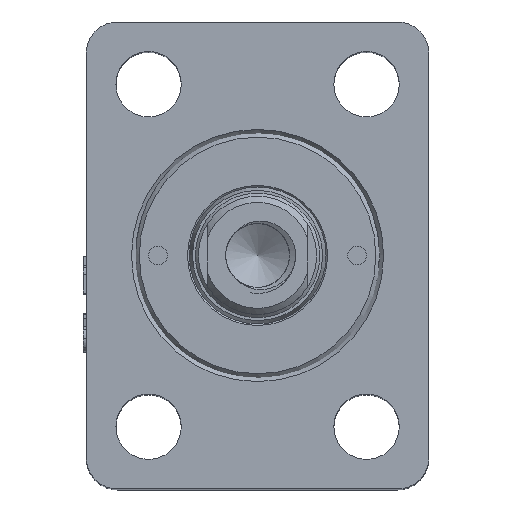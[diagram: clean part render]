
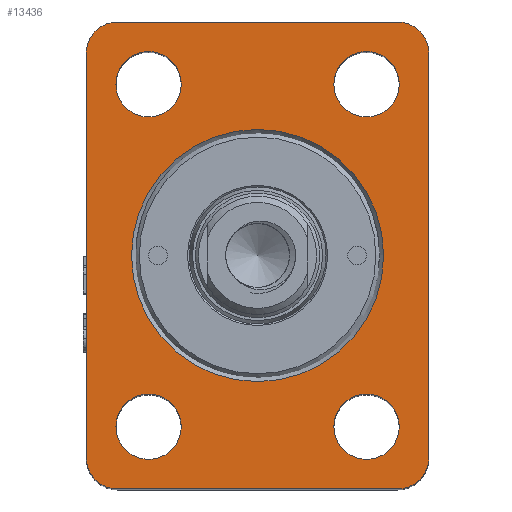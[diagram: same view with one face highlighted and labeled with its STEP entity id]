
A CAD part, top view. The second image highlights one B-rep face of the part: STEP entity #13436.
In plain terms, the highlighted planar face has unit normal (0, 0, 1).
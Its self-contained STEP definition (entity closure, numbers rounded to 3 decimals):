
#1408=FACE_BOUND('',#5086,.T.);
#1409=FACE_BOUND('',#5087,.T.);
#1410=FACE_BOUND('',#5088,.T.);
#1411=FACE_BOUND('',#5089,.T.);
#1412=FACE_BOUND('',#5090,.T.);
#1626=PLANE('',#14081);
#1813=LINE('',#29463,#2728);
#2496=LINE('',#38989,#3411);
#2497=LINE('',#38993,#3412);
#2498=LINE('',#38997,#3413);
#2728=VECTOR('',#15066,10.);
#3411=VECTOR('',#16073,10.);
#3412=VECTOR('',#16076,10.);
#3413=VECTOR('',#16081,10.);
#4279=FACE_OUTER_BOUND('',#5085,.T.);
#5085=EDGE_LOOP('',(#12338,#12339,#12340,#12341,#12342,#12343,#12344,#12345));
#5086=EDGE_LOOP('',(#12346));
#5087=EDGE_LOOP('',(#12347));
#5088=EDGE_LOOP('',(#12348));
#5089=EDGE_LOOP('',(#12349));
#5090=EDGE_LOOP('',(#12350));
#5337=CIRCLE('',#14079,20.25);
#5338=CIRCLE('',#14082,5.);
#5339=CIRCLE('',#14083,5.);
#5340=CIRCLE('',#14084,5.);
#5341=CIRCLE('',#14085,5.);
#5342=CIRCLE('',#14086,5.25);
#5343=CIRCLE('',#14087,5.25);
#5344=CIRCLE('',#14088,5.25);
#5345=CIRCLE('',#14089,5.25);
#5726=VERTEX_POINT('',#29459);
#5728=VERTEX_POINT('',#29462);
#6593=VERTEX_POINT('',#38980);
#6594=VERTEX_POINT('',#38985);
#6595=VERTEX_POINT('',#38986);
#6596=VERTEX_POINT('',#38988);
#6597=VERTEX_POINT('',#38990);
#6598=VERTEX_POINT('',#38992);
#6599=VERTEX_POINT('',#38995);
#6600=VERTEX_POINT('',#38998);
#6601=VERTEX_POINT('',#39000);
#6602=VERTEX_POINT('',#39002);
#6603=VERTEX_POINT('',#39004);
#7232=EDGE_CURVE('',#5728,#5726,#1813,.T.);
#8538=EDGE_CURVE('',#6593,#6593,#5337,.T.);
#8540=EDGE_CURVE('',#6594,#6595,#5338,.T.);
#8541=EDGE_CURVE('',#6594,#6596,#2496,.T.);
#8542=EDGE_CURVE('',#6597,#6596,#5339,.T.);
#8543=EDGE_CURVE('',#6597,#6598,#2497,.T.);
#8544=EDGE_CURVE('',#5728,#6598,#5340,.T.);
#8545=EDGE_CURVE('',#6599,#5726,#5341,.T.);
#8546=EDGE_CURVE('',#6599,#6595,#2498,.T.);
#8547=EDGE_CURVE('',#6600,#6600,#5342,.T.);
#8548=EDGE_CURVE('',#6601,#6601,#5343,.T.);
#8549=EDGE_CURVE('',#6602,#6602,#5344,.T.);
#8550=EDGE_CURVE('',#6603,#6603,#5345,.T.);
#12338=ORIENTED_EDGE('',*,*,#8540,.F.);
#12339=ORIENTED_EDGE('',*,*,#8541,.T.);
#12340=ORIENTED_EDGE('',*,*,#8542,.F.);
#12341=ORIENTED_EDGE('',*,*,#8543,.T.);
#12342=ORIENTED_EDGE('',*,*,#8544,.F.);
#12343=ORIENTED_EDGE('',*,*,#7232,.T.);
#12344=ORIENTED_EDGE('',*,*,#8545,.F.);
#12345=ORIENTED_EDGE('',*,*,#8546,.T.);
#12346=ORIENTED_EDGE('',*,*,#8547,.T.);
#12347=ORIENTED_EDGE('',*,*,#8548,.T.);
#12348=ORIENTED_EDGE('',*,*,#8549,.T.);
#12349=ORIENTED_EDGE('',*,*,#8550,.T.);
#12350=ORIENTED_EDGE('',*,*,#8538,.F.);
#13436=ADVANCED_FACE('',(#4279,#1408,#1409,#1410,#1411,#1412),#1626,.T.);
#14079=AXIS2_PLACEMENT_3D('',#38981,#16064,#16065);
#14081=AXIS2_PLACEMENT_3D('',#38984,#16069,#16070);
#14082=AXIS2_PLACEMENT_3D('',#38987,#16071,#16072);
#14083=AXIS2_PLACEMENT_3D('',#38991,#16074,#16075);
#14084=AXIS2_PLACEMENT_3D('',#38994,#16077,#16078);
#14085=AXIS2_PLACEMENT_3D('',#38996,#16079,#16080);
#14086=AXIS2_PLACEMENT_3D('',#38999,#16082,#16083);
#14087=AXIS2_PLACEMENT_3D('',#39001,#16084,#16085);
#14088=AXIS2_PLACEMENT_3D('',#39003,#16086,#16087);
#14089=AXIS2_PLACEMENT_3D('',#39005,#16088,#16089);
#15066=DIRECTION('',(0.,-1.,0.));
#16064=DIRECTION('center_axis',(0.,0.,1.));
#16065=DIRECTION('ref_axis',(-1.,0.,0.));
#16069=DIRECTION('center_axis',(0.,0.,1.));
#16070=DIRECTION('ref_axis',(1.,0.,0.));
#16071=DIRECTION('center_axis',(0.,0.,-1.));
#16072=DIRECTION('ref_axis',(0.707,-0.707,0.));
#16073=DIRECTION('',(0.,1.,0.));
#16074=DIRECTION('center_axis',(0.,0.,-1.));
#16075=DIRECTION('ref_axis',(0.707,0.707,0.));
#16076=DIRECTION('',(-1.,0.,0.));
#16077=DIRECTION('center_axis',(0.,0.,-1.));
#16078=DIRECTION('ref_axis',(-0.707,0.707,0.));
#16079=DIRECTION('center_axis',(0.,0.,-1.));
#16080=DIRECTION('ref_axis',(-0.707,-0.707,0.));
#16081=DIRECTION('',(1.,0.,0.));
#16082=DIRECTION('center_axis',(0.,0.,-1.));
#16083=DIRECTION('ref_axis',(-1.,0.,0.));
#16084=DIRECTION('center_axis',(0.,0.,-1.));
#16085=DIRECTION('ref_axis',(-1.,0.,0.));
#16086=DIRECTION('center_axis',(0.,0.,-1.));
#16087=DIRECTION('ref_axis',(-1.,0.,0.));
#16088=DIRECTION('center_axis',(0.,0.,-1.));
#16089=DIRECTION('ref_axis',(-1.,0.,0.));
#29459=CARTESIAN_POINT('',(0.,5.,95.));
#29462=CARTESIAN_POINT('',(0.,70.,95.));
#29463=CARTESIAN_POINT('',(0.,75.,95.));
#38980=CARTESIAN_POINT('',(47.75,37.5,95.));
#38981=CARTESIAN_POINT('Origin',(27.5,37.5,95.));
#38984=CARTESIAN_POINT('Origin',(27.5,37.5,95.));
#38985=CARTESIAN_POINT('',(55.,5.,95.));
#38986=CARTESIAN_POINT('',(50.,0.,95.));
#38987=CARTESIAN_POINT('Origin',(50.,5.,95.));
#38988=CARTESIAN_POINT('',(55.,70.,95.));
#38989=CARTESIAN_POINT('',(55.,0.,95.));
#38990=CARTESIAN_POINT('',(50.,75.,95.));
#38991=CARTESIAN_POINT('Origin',(50.,70.,95.));
#38992=CARTESIAN_POINT('',(5.,75.,95.));
#38993=CARTESIAN_POINT('',(55.,75.,95.));
#38994=CARTESIAN_POINT('Origin',(5.,70.,95.));
#38995=CARTESIAN_POINT('',(5.,0.,95.));
#38996=CARTESIAN_POINT('Origin',(5.,5.,95.));
#38997=CARTESIAN_POINT('',(0.,0.,95.));
#38998=CARTESIAN_POINT('',(50.25,10.,95.));
#38999=CARTESIAN_POINT('Origin',(45.,10.,95.));
#39000=CARTESIAN_POINT('',(50.25,65.,95.));
#39001=CARTESIAN_POINT('Origin',(45.,65.,95.));
#39002=CARTESIAN_POINT('',(15.25,10.,95.));
#39003=CARTESIAN_POINT('Origin',(10.,10.,95.));
#39004=CARTESIAN_POINT('',(15.25,65.,95.));
#39005=CARTESIAN_POINT('Origin',(10.,65.,95.));
